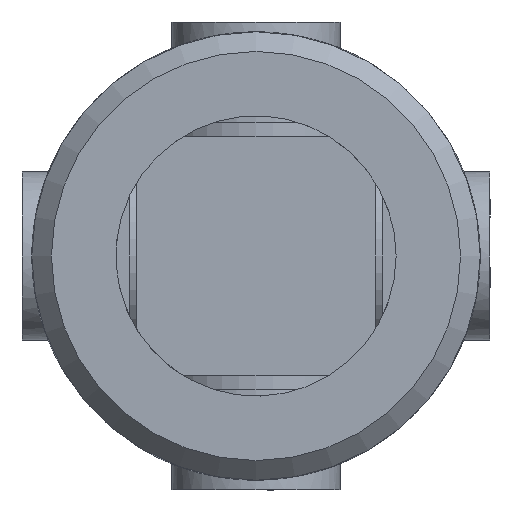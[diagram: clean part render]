
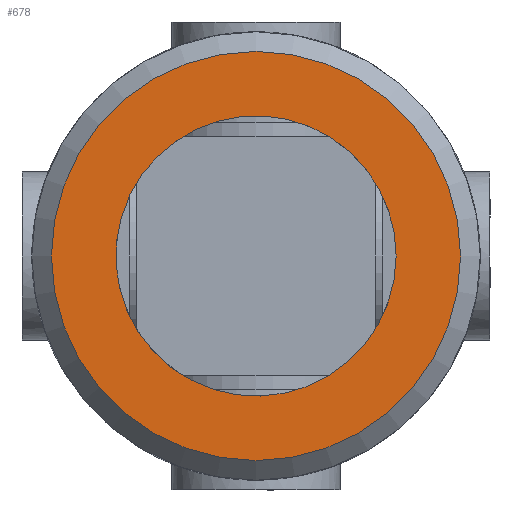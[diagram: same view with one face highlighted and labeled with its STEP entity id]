
A CAD part, front view. The second image highlights one B-rep face of the part: STEP entity #678.
In plain terms, the highlighted planar face has unit normal (0, -1, 0).
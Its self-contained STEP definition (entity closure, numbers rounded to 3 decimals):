
#137=PLANE('',#744);
#162=FACE_BOUND('',#249,.T.);
#191=FACE_OUTER_BOUND('',#248,.T.);
#248=EDGE_LOOP('',(#552));
#249=EDGE_LOOP('',(#553));
#286=CIRCLE('',#729,5.);
#294=CIRCLE('',#742,7.3);
#328=VERTEX_POINT('',#1039);
#342=VERTEX_POINT('',#1137);
#399=EDGE_CURVE('',#328,#328,#286,.T.);
#418=EDGE_CURVE('',#342,#342,#294,.T.);
#552=ORIENTED_EDGE('',*,*,#418,.F.);
#553=ORIENTED_EDGE('',*,*,#399,.T.);
#678=ADVANCED_FACE('',(#191,#162),#137,.F.);
#729=AXIS2_PLACEMENT_3D('',#1040,#852,#853);
#742=AXIS2_PLACEMENT_3D('',#1138,#883,#884);
#744=AXIS2_PLACEMENT_3D('',#1306,#891,#892);
#852=DIRECTION('center_axis',(0.,1.,0.));
#853=DIRECTION('ref_axis',(-1.,0.,0.));
#883=DIRECTION('center_axis',(0.,1.,0.));
#884=DIRECTION('ref_axis',(1.,0.,0.));
#891=DIRECTION('center_axis',(0.,1.,0.));
#892=DIRECTION('ref_axis',(0.,0.,1.));
#1039=CARTESIAN_POINT('',(5.,-30.,0.));
#1040=CARTESIAN_POINT('Origin',(0.,-30.,0.));
#1137=CARTESIAN_POINT('',(-7.3,-30.,0.));
#1138=CARTESIAN_POINT('Origin',(0.,-30.,0.));
#1306=CARTESIAN_POINT('Origin',(0.,-30.,0.));
